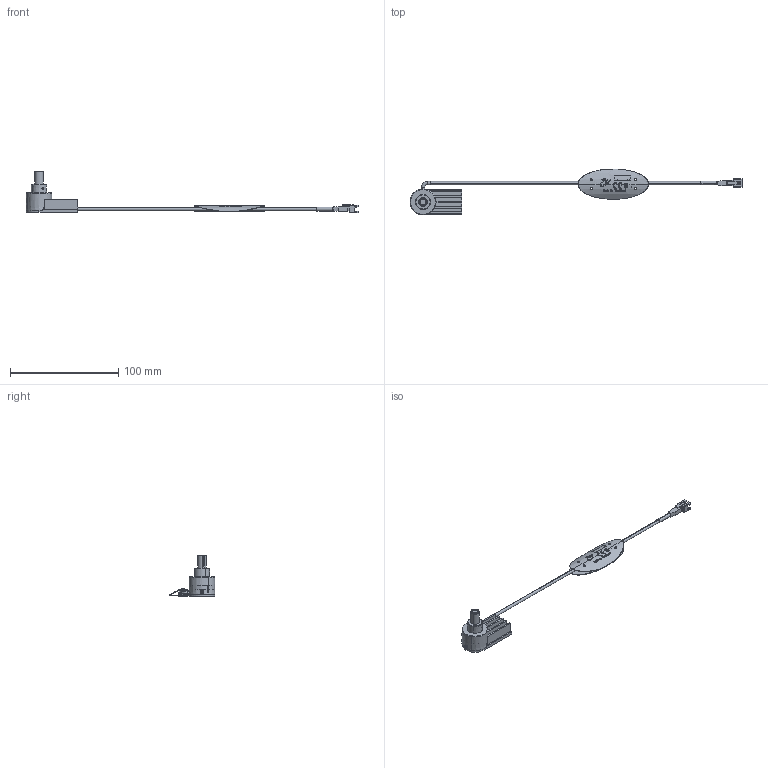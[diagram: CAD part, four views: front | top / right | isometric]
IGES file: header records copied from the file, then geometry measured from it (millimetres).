
Start section: 3D InterOp IGES (v. 2019 1.0.2), Spatial Corp. Copyright (c) 1999-2017.
Global section: file name: VSPL-A07-2P_DRAWING_3D.iges; native system: Spatial Corp.; preprocessor: 3D InterOp ACIS/IGES; author: Noname; organization: Noname; date: 20240304.120538; units: millimetre
Bounding box: 307 x 42.5 x 38.7 mm (x, y, z)
Surface area: 20491.3 mm2 (no closed solid volume)
Topology: 0 solids, 0 shells, 563 faces, 3392 edges, 3388 vertices
Faces by surface type: extrusion 304, revolution 247, bspline 12
